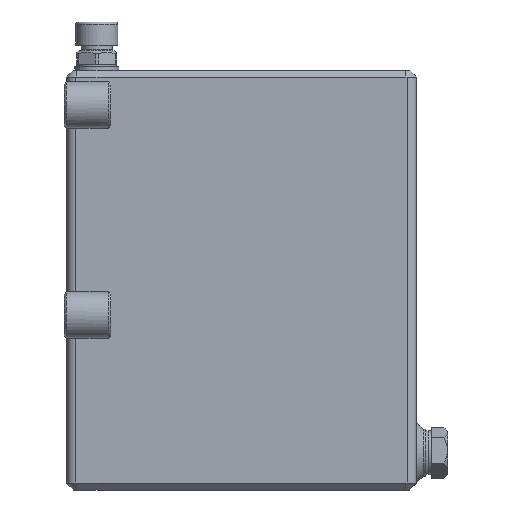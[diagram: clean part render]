
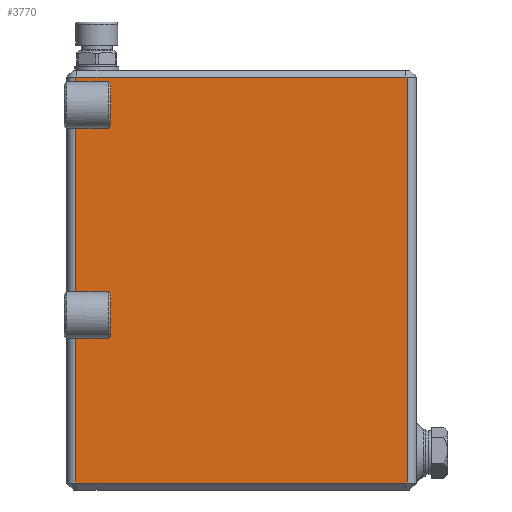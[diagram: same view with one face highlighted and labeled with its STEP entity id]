
A CAD part, left-side view. The second image highlights one B-rep face of the part: STEP entity #3770.
In plain terms, the highlighted planar face has unit normal (-1, 0, 0).
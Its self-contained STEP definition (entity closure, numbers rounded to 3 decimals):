
#48=LINE('',#7892,#281);
#53=LINE('',#7902,#286);
#54=LINE('',#7904,#287);
#56=LINE('',#7908,#289);
#58=LINE('',#7912,#291);
#61=LINE('',#7918,#294);
#62=LINE('',#7920,#295);
#64=LINE('',#7924,#297);
#66=LINE('',#7928,#299);
#87=LINE('',#7972,#320);
#88=LINE('',#7974,#321);
#108=LINE('',#8059,#341);
#110=LINE('',#8062,#343);
#111=LINE('',#8064,#344);
#112=LINE('',#8065,#345);
#113=LINE('',#8067,#346);
#114=LINE('',#8068,#347);
#115=LINE('',#8070,#348);
#281=VECTOR('',#6684,1000.);
#286=VECTOR('',#6691,1000.);
#287=VECTOR('',#6694,1000.);
#289=VECTOR('',#6698,1000.);
#291=VECTOR('',#6702,1000.);
#294=VECTOR('',#6707,1000.);
#295=VECTOR('',#6710,1000.);
#297=VECTOR('',#6714,1000.);
#299=VECTOR('',#6718,1000.);
#320=VECTOR('',#6761,1000.);
#321=VECTOR('',#6764,1000.);
#341=VECTOR('',#6870,1000.);
#343=VECTOR('',#6874,1000.);
#344=VECTOR('',#6875,1000.);
#345=VECTOR('',#6876,1000.);
#346=VECTOR('',#6877,1000.);
#347=VECTOR('',#6878,1000.);
#348=VECTOR('',#6879,1000.);
#1039=ORIENTED_EDGE('',*,*,#1838,.T.);
#1040=ORIENTED_EDGE('',*,*,#1775,.T.);
#1041=ORIENTED_EDGE('',*,*,#1773,.T.);
#1042=ORIENTED_EDGE('',*,*,#1771,.T.);
#1043=ORIENTED_EDGE('',*,*,#1770,.T.);
#1044=ORIENTED_EDGE('',*,*,#1839,.T.);
#1045=ORIENTED_EDGE('',*,*,#1767,.T.);
#1046=ORIENTED_EDGE('',*,*,#1765,.T.);
#1047=ORIENTED_EDGE('',*,*,#1763,.T.);
#1048=ORIENTED_EDGE('',*,*,#1762,.T.);
#1049=ORIENTED_EDGE('',*,*,#1840,.T.);
#1050=ORIENTED_EDGE('',*,*,#1841,.F.);
#1051=ORIENTED_EDGE('',*,*,#1757,.F.);
#1052=ORIENTED_EDGE('',*,*,#1797,.F.);
#1053=ORIENTED_EDGE('',*,*,#1798,.T.);
#1054=ORIENTED_EDGE('',*,*,#1836,.F.);
#1055=ORIENTED_EDGE('',*,*,#1842,.F.);
#1056=ORIENTED_EDGE('',*,*,#1843,.F.);
#1757=EDGE_CURVE('',#2220,#2227,#48,.T.);
#1762=EDGE_CURVE('',#2229,#2230,#53,.T.);
#1763=EDGE_CURVE('',#2186,#2229,#54,.T.);
#1765=EDGE_CURVE('',#2231,#2186,#56,.T.);
#1767=EDGE_CURVE('',#2232,#2231,#58,.T.);
#1770=EDGE_CURVE('',#2233,#2234,#61,.T.);
#1771=EDGE_CURVE('',#2189,#2233,#62,.T.);
#1773=EDGE_CURVE('',#2235,#2189,#64,.T.);
#1775=EDGE_CURVE('',#2236,#2235,#66,.T.);
#1797=EDGE_CURVE('',#2248,#2220,#87,.T.);
#1798=EDGE_CURVE('',#2248,#2249,#88,.T.);
#1836=EDGE_CURVE('',#2269,#2249,#108,.T.);
#1838=EDGE_CURVE('',#2271,#2236,#110,.T.);
#1839=EDGE_CURVE('',#2234,#2232,#111,.T.);
#1840=EDGE_CURVE('',#2230,#2272,#112,.T.);
#1841=EDGE_CURVE('',#2227,#2272,#113,.T.);
#1842=EDGE_CURVE('',#2273,#2269,#114,.T.);
#1843=EDGE_CURVE('',#2271,#2273,#115,.T.);
#2186=VERTEX_POINT('',#7786);
#2189=VERTEX_POINT('',#7793);
#2220=VERTEX_POINT('',#7876);
#2227=VERTEX_POINT('',#7893);
#2229=VERTEX_POINT('',#7899);
#2230=VERTEX_POINT('',#7901);
#2231=VERTEX_POINT('',#7907);
#2232=VERTEX_POINT('',#7911);
#2233=VERTEX_POINT('',#7915);
#2234=VERTEX_POINT('',#7917);
#2235=VERTEX_POINT('',#7923);
#2236=VERTEX_POINT('',#7927);
#2248=VERTEX_POINT('',#7971);
#2249=VERTEX_POINT('',#7975);
#2269=VERTEX_POINT('',#8057);
#2271=VERTEX_POINT('',#8063);
#2272=VERTEX_POINT('',#8066);
#2273=VERTEX_POINT('',#8069);
#2914=EDGE_LOOP('',(#1039,#1040,#1041,#1042,#1043,#1044,#1045,#1046,#1047,
#1048,#1049,#1050,#1051,#1052,#1053,#1054,#1055,#1056));
#3320=FACE_BOUND('',#2914,.T.);
#3569=PLANE('',#5996);
#3770=ADVANCED_FACE('',(#3320),#3569,.F.);
#5996=AXIS2_PLACEMENT_3D('',#8061,#6872,#6873);
#6684=DIRECTION('',(0.,1.,0.));
#6691=DIRECTION('',(0.,1.,0.));
#6694=DIRECTION('',(0.,0.,-1.));
#6698=DIRECTION('',(0.,0.,-1.));
#6702=DIRECTION('',(0.,-1.,0.));
#6707=DIRECTION('',(0.,1.,0.));
#6710=DIRECTION('',(0.,0.,-1.));
#6714=DIRECTION('',(0.,0.,-1.));
#6718=DIRECTION('',(0.,-1.,0.));
#6761=DIRECTION('',(0.,1.,0.));
#6764=DIRECTION('',(0.,0.,1.));
#6870=DIRECTION('',(0.,-1.,0.));
#6872=DIRECTION('',(1.,0.,0.));
#6873=DIRECTION('',(0.,1.,0.));
#6874=DIRECTION('',(0.,0.,-1.));
#6875=DIRECTION('',(0.,0.,-1.));
#6876=DIRECTION('',(0.,0.,-1.));
#6877=DIRECTION('',(0.,1.,0.));
#6878=DIRECTION('',(0.,-1.,0.));
#6879=DIRECTION('',(0.,-1.,0.));
#7786=CARTESIAN_POINT('',(-50.,57.,75.));
#7793=CARTESIAN_POINT('',(-50.,57.,165.));
#7876=CARTESIAN_POINT('',(-50.,-70.5,3.));
#7892=CARTESIAN_POINT('',(-50.,-75.,3.));
#7893=CARTESIAN_POINT('',(-50.,70.5,3.));
#7899=CARTESIAN_POINT('',(-50.,57.,69.));
#7901=CARTESIAN_POINT('',(-50.,71.,69.));
#7902=CARTESIAN_POINT('',(-50.,57.,69.));
#7904=CARTESIAN_POINT('',(-50.,57.,90.));
#7907=CARTESIAN_POINT('',(-50.,57.,81.));
#7908=CARTESIAN_POINT('',(-50.,57.,90.));
#7911=CARTESIAN_POINT('',(-50.,71.,81.));
#7912=CARTESIAN_POINT('',(-50.,71.,81.));
#7915=CARTESIAN_POINT('',(-50.,57.,159.));
#7917=CARTESIAN_POINT('',(-50.,71.,159.));
#7918=CARTESIAN_POINT('',(-50.,57.,159.));
#7920=CARTESIAN_POINT('',(-50.,57.,90.));
#7923=CARTESIAN_POINT('',(-50.,57.,171.));
#7924=CARTESIAN_POINT('',(-50.,57.,90.));
#7927=CARTESIAN_POINT('',(-50.,71.,171.));
#7928=CARTESIAN_POINT('',(-50.,71.,171.));
#7971=CARTESIAN_POINT('',(-50.,-71.,3.));
#7972=CARTESIAN_POINT('',(-50.,-75.,3.));
#7974=CARTESIAN_POINT('',(-50.,-71.,3.));
#7975=CARTESIAN_POINT('',(-50.,-71.,177.));
#8057=CARTESIAN_POINT('',(-50.,-70.5,177.));
#8059=CARTESIAN_POINT('',(-50.,75.,177.));
#8061=CARTESIAN_POINT('',(-50.,0.,90.));
#8062=CARTESIAN_POINT('',(-50.,71.,177.));
#8063=CARTESIAN_POINT('',(-50.,71.,177.));
#8064=CARTESIAN_POINT('',(-50.,71.,177.));
#8065=CARTESIAN_POINT('',(-50.,71.,177.));
#8066=CARTESIAN_POINT('',(-50.,71.,3.));
#8067=CARTESIAN_POINT('',(-50.,-75.,3.));
#8068=CARTESIAN_POINT('',(-50.,75.,177.));
#8069=CARTESIAN_POINT('',(-50.,70.5,177.));
#8070=CARTESIAN_POINT('',(-50.,75.,177.));
